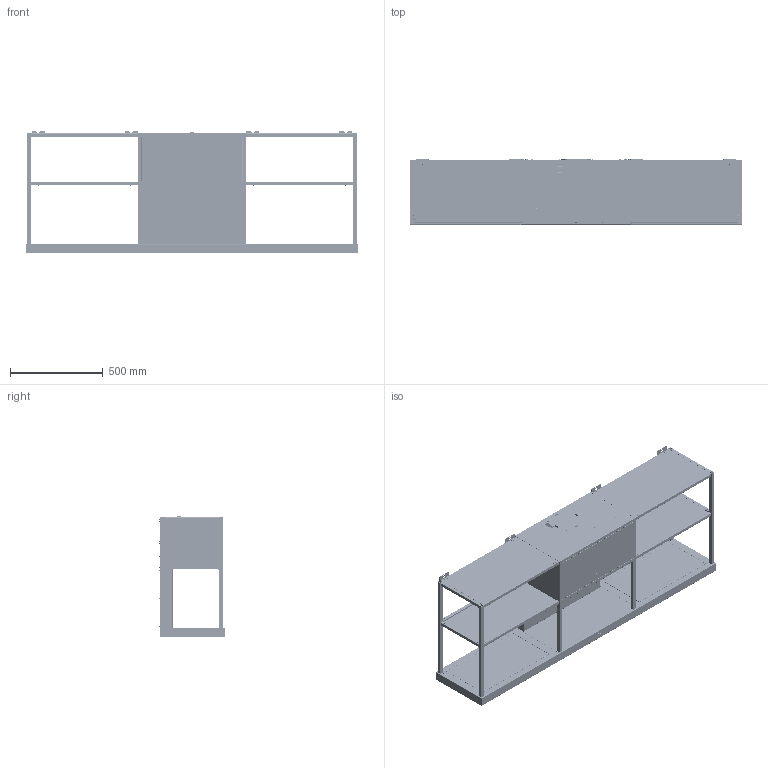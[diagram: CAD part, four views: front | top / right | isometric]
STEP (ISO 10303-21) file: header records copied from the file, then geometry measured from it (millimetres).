
FILE_DESCRIPTION(/* description */ (''),/* implementation_level */ '2;1');
FILE_NAME(/* name */ '3D001_Hoods_Maris_Modular',/* time_stamp */ '2024-03-19T11:06:01+01:00',/* author */ (''),/* organization */ (''),/* preprocessor_version */ 'ST-DEVELOPER v19.2',/* originating_system */ 'Rhino 8.4',/* authorisation */ '');
FILE_SCHEMA (('CONFIG_CONTROL_DESIGN'));
Products named in the file (35): Document; 335007_009_G; K44_016; Blocco 01; 335077_717_G_ASM; 335077_714_G_ASM; 335077_032_G; 335077_034_G; 335077_024_G; 335077_033_G; 335077_011_G; 325121_012; 335077_030_G; 335077_031_G; 335077_019_G; A74_025_H3; 335077_718_G_ASM; 335077_018_G; CMM_BOCCOLA_M6; 335077_022_G; VITE_M4X10_TCB; SCR_031; 335077_711_G_ASM; 335077_001_G; 335077_002_G; 335077_003_G; 335077_004_G; 335077_010_G; FIN_040; 335077_011_40; RVT_003; 330071_046; CMM_PERNO_GRIGLIA; 335077_009_G; wireframe_rep_0
Bounding box: 1794 x 352.7 x 664.6 mm (x, y, z)
Volume: 4087282.6 mm3; surface area: 9474017.6 mm2
Topology: 140 solids, 572 shells, 9605 faces, 25758 edges, 16462 vertices
Faces by surface type: plane 5469, cylinder 3174, bspline 962
Entity records: 248182 total; most frequent: CARTESIAN_POINT 95303, ORIENTED_EDGE 34636, EDGE_CURVE 18494, DIRECTION 18132, B_SPLINE_CURVE_WITH_KNOTS 12711, AXIS2_PLACEMENT_3D 12195, VERTEX_POINT 11954, EDGE_LOOP 7906
